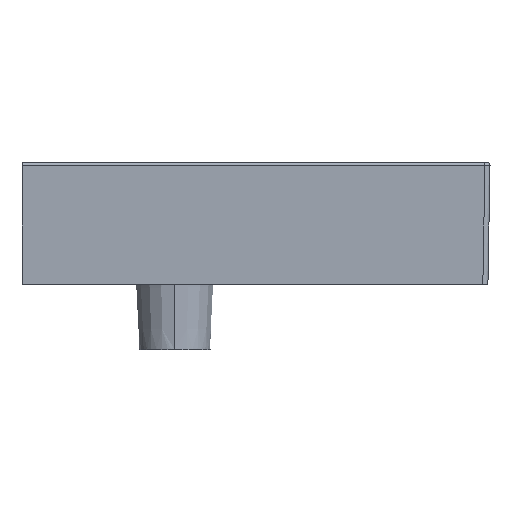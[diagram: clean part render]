
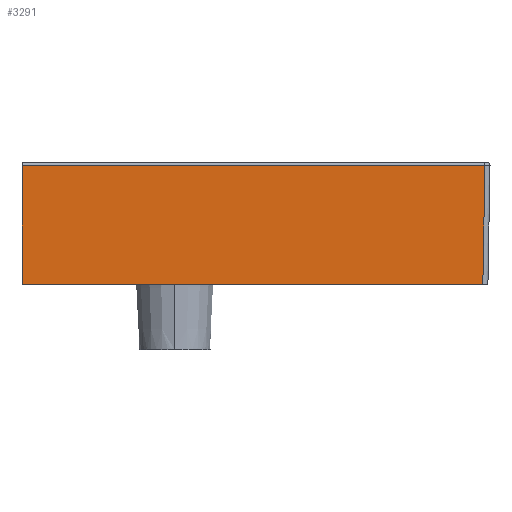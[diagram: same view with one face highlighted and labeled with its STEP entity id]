
A CAD part, front view. The second image highlights one B-rep face of the part: STEP entity #3291.
In plain terms, the highlighted planar face has unit normal (0, -1, -0.018).
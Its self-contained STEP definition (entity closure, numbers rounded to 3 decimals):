
#2754=CARTESIAN_POINT('Vertex',(-290.,-597.405,-25.)) ;
#2757=CARTESIAN_POINT('Line Origine',(-290.,-598.426,33.474)) ;
#2761=CARTESIAN_POINT('Vertex',(-290.,-599.447,91.948)) ;
#3145=CARTESIAN_POINT('Vertex',(164.947,-599.447,91.948)) ;
#3168=CARTESIAN_POINT('Line Origine',(-59.932,-599.447,91.948)) ;
#3269=CARTESIAN_POINT('Axis2P3D Location',(0.,-599.5,95.)) ;
#3274=CARTESIAN_POINT('Line Origine',(-61.076,-597.405,-25.)) ;
#3278=CARTESIAN_POINT('Vertex',(162.906,-597.405,-25.)) ;
#3282=CARTESIAN_POINT('Control Point',(162.906,-597.405,-25.)) ;
#3283=CARTESIAN_POINT('Control Point',(164.947,-599.447,91.948)) ;
#2758=DIRECTION('Vector Direction',(0.,0.017,-1.)) ;
#3169=DIRECTION('Vector Direction',(-1.,0.,0.)) ;
#3270=DIRECTION('Axis2P3D Direction',(0.,-1.,-0.017)) ;
#3271=DIRECTION('Axis2P3D XDirection',(1.,0.,0.)) ;
#3275=DIRECTION('Vector Direction',(1.,0.,0.)) ;
#3272=AXIS2_PLACEMENT_3D('Plane Axis2P3D',#3269,#3270,#3271) ;
#3286=ORIENTED_EDGE('',*,*,#2763,.T.) ;
#3287=ORIENTED_EDGE('',*,*,#3280,.T.) ;
#3288=ORIENTED_EDGE('',*,*,#3284,.F.) ;
#3289=ORIENTED_EDGE('',*,*,#3172,.F.) ;
#2759=VECTOR('Line Direction',#2758,1.) ;
#3170=VECTOR('Line Direction',#3169,1.) ;
#3276=VECTOR('Line Direction',#3275,1.) ;
#3291=ADVANCED_FACE('Hauptk\X2\00F6\X0\rper',(#3290),#3273,.T.) ;
#3281=B_SPLINE_CURVE_WITH_KNOTS('',1,(#3282,#3283),.UNSPECIFIED.,.F.,.U.,(2,2),(-60.018,56.965),.UNSPECIFIED.) ;
#2763=EDGE_CURVE('',#2762,#2755,#2760,.T.) ;
#3172=EDGE_CURVE('',#2762,#3146,#3171,.F.) ;
#3280=EDGE_CURVE('',#2755,#3279,#3277,.T.) ;
#3284=EDGE_CURVE('',#3146,#3279,#3281,.F.) ;
#3285=EDGE_LOOP('',(#3286,#3287,#3288,#3289)) ;
#3290=FACE_OUTER_BOUND('',#3285,.T.) ;
#2760=LINE('Line',#2757,#2759) ;
#3171=LINE('Line',#3168,#3170) ;
#3277=LINE('Line',#3274,#3276) ;
#3273=PLANE('Plane',#3272) ;
#2755=VERTEX_POINT('',#2754) ;
#2762=VERTEX_POINT('',#2761) ;
#3146=VERTEX_POINT('',#3145) ;
#3279=VERTEX_POINT('',#3278) ;
